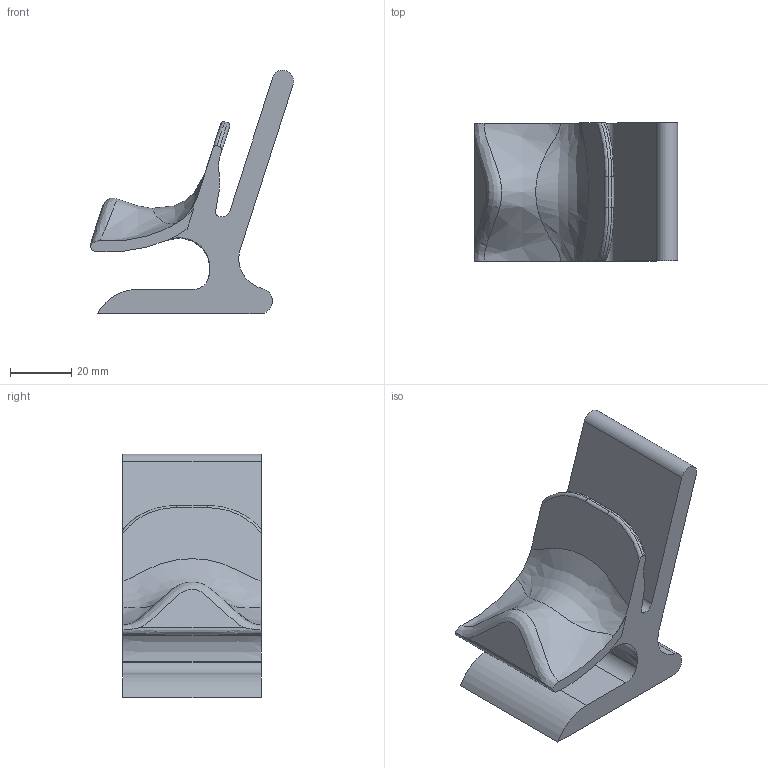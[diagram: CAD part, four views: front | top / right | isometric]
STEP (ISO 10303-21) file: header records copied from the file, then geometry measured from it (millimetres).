
FILE_DESCRIPTION(/* description */ (''),/* implementation_level */ '2;1');
FILE_NAME(/* name */ 'Support lunettes - prsentoire 1 place.step',/* time_stamp */ '2025-07-16T16:22:48+02:00',/* author */ (''),/* organization */ (''),/* preprocessor_version */ 'ST-DEVELOPER v20.1',/* originating_system */ 'Autodesk Translation Framework v14.10.0.0',/* authorisation */ '');
FILE_SCHEMA (('AUTOMOTIVE_DESIGN { 1 0 10303 214 3 1 1 }'));
Length unit declared in the file: millimetre
Products named in the file (1): Support lunettes - présentoire 4 places
Bounding box: 66.26 x 45 x 79.42 mm (x, y, z)
Volume: 69010.6 mm3; surface area: 20572.6 mm2
Topology: 1 solids, 1 shells, 355 faces, 1013 edges, 674 vertices
Faces by surface type: bspline 270, plane 72, cylinder 13
Entity records: 14958 total; most frequent: CARTESIAN_POINT 7845, ORIENTED_EDGE 2026, EDGE_CURVE 1013, VERTEX_POINT 674, DIRECTION 659, LINE 435, VECTOR 435, EDGE_LOOP 369
